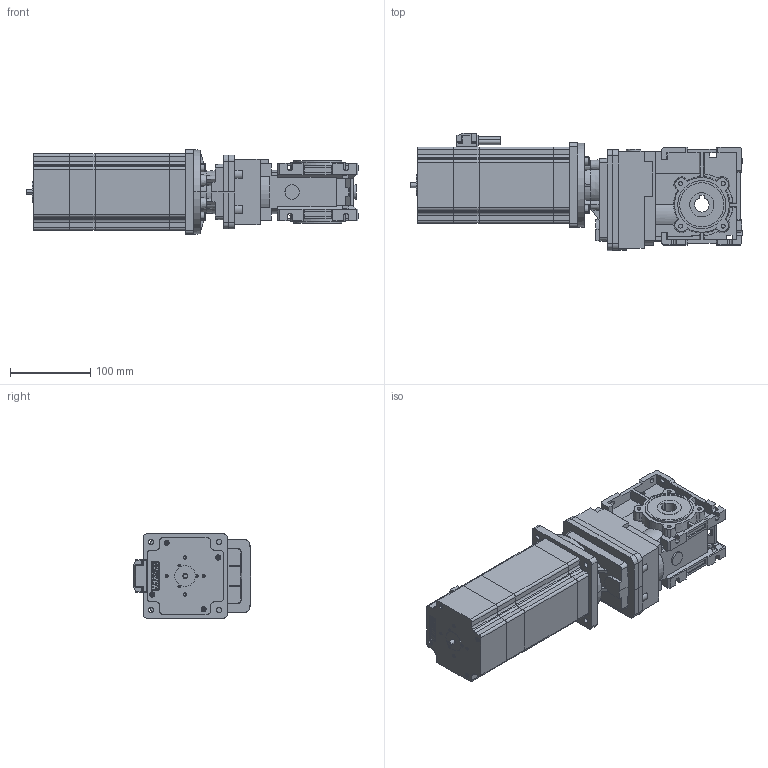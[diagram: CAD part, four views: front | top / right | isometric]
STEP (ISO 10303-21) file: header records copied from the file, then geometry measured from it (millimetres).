
FILE_DESCRIPTION (( 'STEP AP214' ), '1' );
FILE_NAME ('CMB402+BL200.48.95.STEP', '2021-05-05T08:36:50', ( '' ), ( '' ), 'SwSTEP 2.0', 'SolidWorks 2020', '' );
FILE_SCHEMA (( 'AUTOMOTIVE_DESIGN' ));
Length unit declared in the file: millimetre
Products named in the file (4): BL200.48.95 INT; CMB402+BL200.48.95; CMB402_U_D18_71B14; 6SCHHM618ZC
Assembly tree (6 placements, depth 2):
  CMB402+BL200.48.95
    CMB402_U_D18_71B14
    BL200.48.95 INT
    6SCHHM618ZC  x4
Bounding box: 413.5 x 146 x 105 mm (x, y, z)
Volume: 3056424.3 mm3; surface area: 311867.5 mm2
Topology: 11 solids, 16 shells, 1308 faces, 3475 edges, 2250 vertices
Faces by surface type: plane 762, cylinder 268, cone 226, bspline 28, torus 24
Entity records: 47423 total; most frequent: CARTESIAN_POINT 9924, ORIENTED_EDGE 6634, DIRECTION 6354, EDGE_CURVE 3317, VERTEX_POINT 2172, LINE 2124, VECTOR 2124, AXIS2_PLACEMENT_3D 2115
